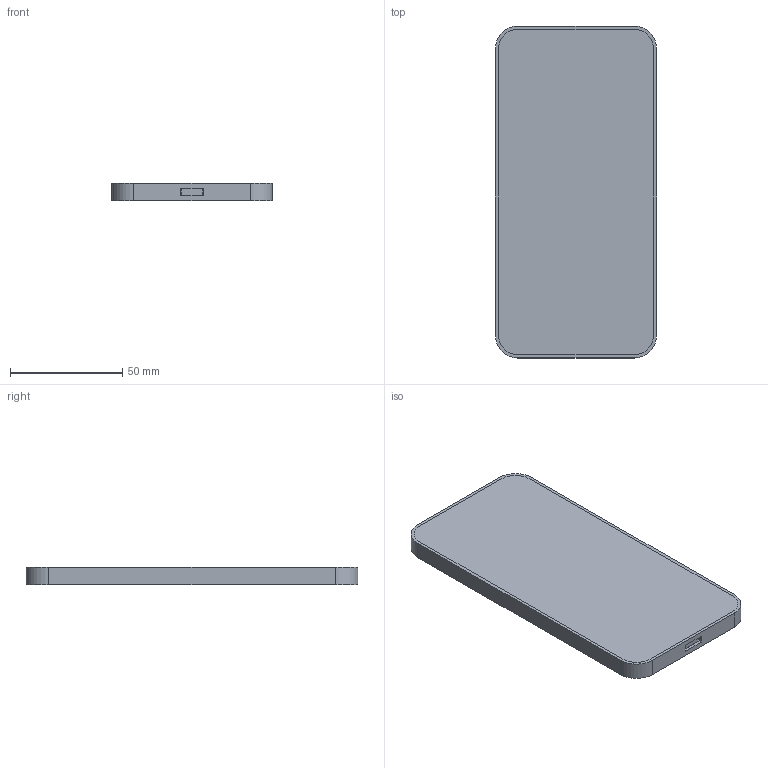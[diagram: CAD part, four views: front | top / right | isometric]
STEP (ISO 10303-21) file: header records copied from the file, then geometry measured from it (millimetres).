
FILE_DESCRIPTION(('FreeCAD Model'),'2;1');
FILE_NAME('Open CASCADE Shape Model','2026-10-16T12:25:01',('FreeCAD'),( 'FreeCAD'),'Open CASCADE STEP processor 7.8','FreeCAD','Unknown');
FILE_SCHEMA(('AUTOMOTIVE_DESIGN { 1 0 10303 214 1 1 1 1 }'));
Length unit declared in the file: millimetre
Products named in the file (1): Open CASCADE STEP translator 7.8 1
Bounding box: 71.6 x 147.6 x 7.8 mm (x, y, z)
Volume: 49401.7 mm3; surface area: 95569.4 mm2
Topology: 64 solids, 64 shells, 392 faces, 792 edges, 528 vertices
Faces by surface type: plane 354, cylinder 38
Full cylindrical faces by diameter (mm): 0.7 x4, 1.4 x8, 2.7 x4, 10.8 x2
Entity records: 9996 total; most frequent: CARTESIAN_POINT 1713, DIRECTION 1654, ORIENTED_EDGE 1584, EDGE_CURVE 792, LINE 716, VECTOR 716, VERTEX_POINT 528, AXIS2_PLACEMENT_3D 469
